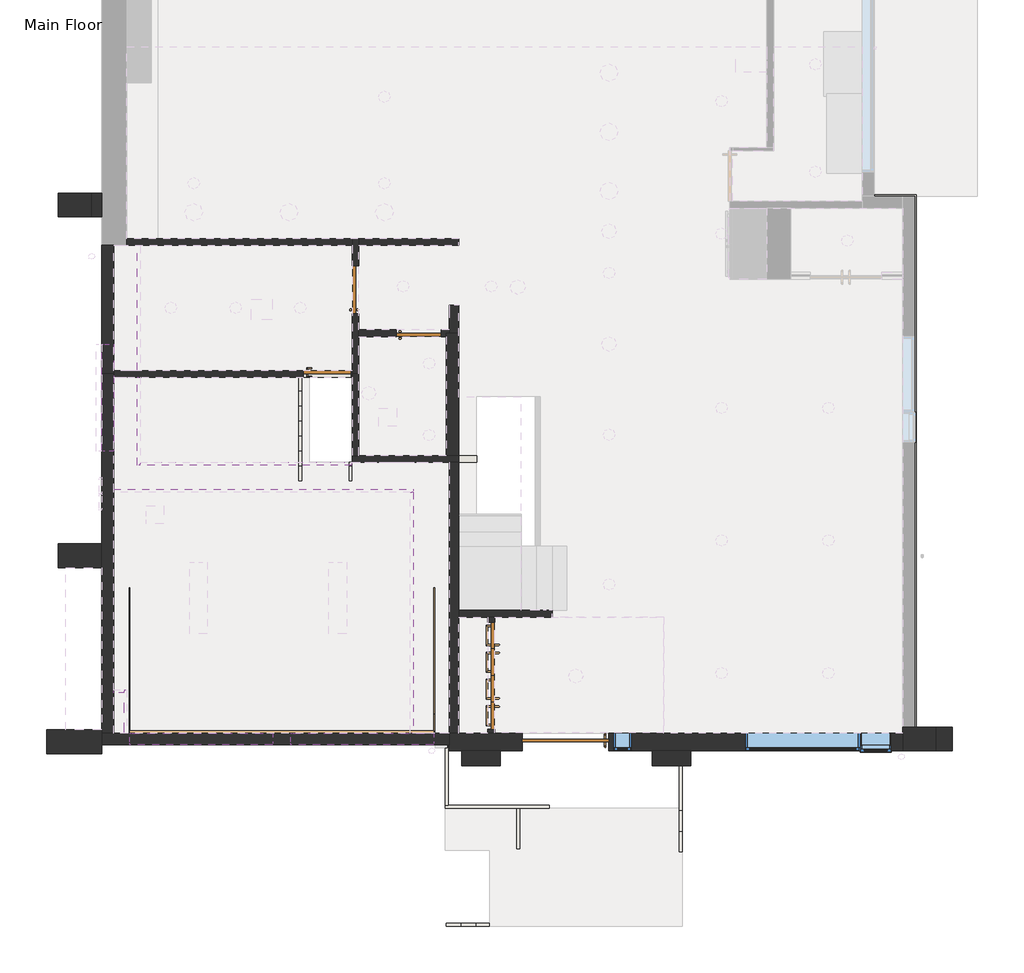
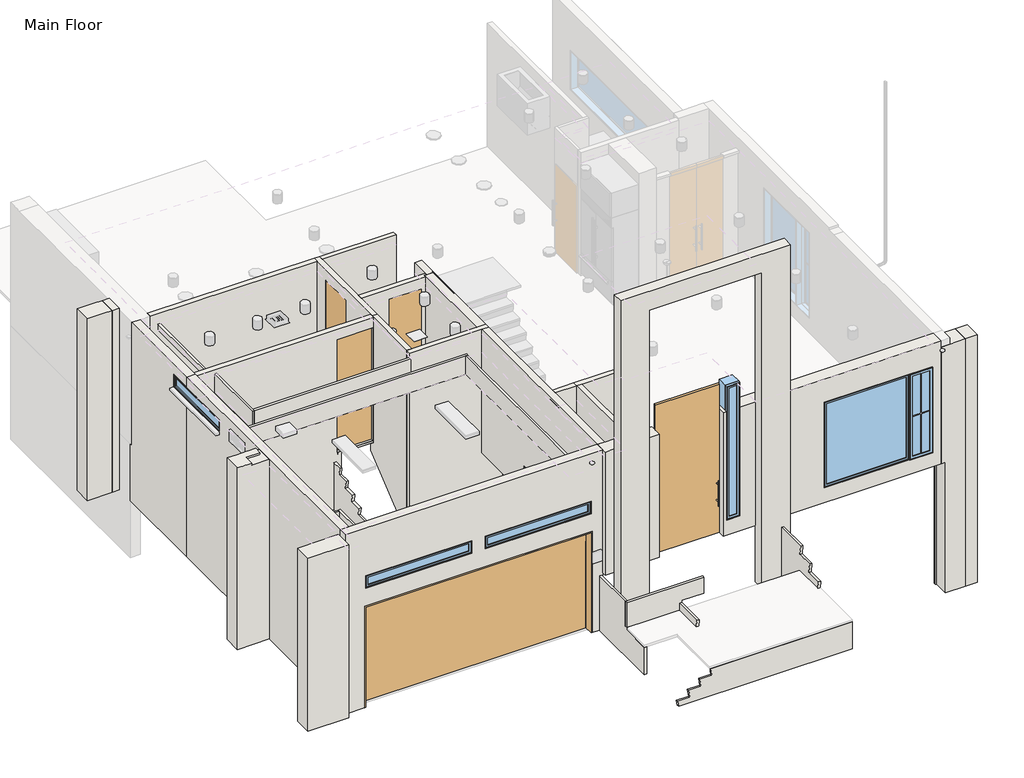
# One storey, part 1 of 4: 38 walls, 17 doors, 6 windows.
"""IFC4 building model written with IfcOpenShell, lengths in millimetres."""

from ifc_helpers import new_model, si_unit, frame, origin, origin_with_axes, place, context, project, spatial, polyline, outline, extrude, faceted_brep, transform, mapped, element, save
from components import door_a816a329, door_f25b7232, door_749a95ec, door_f305abca, door_1181abbb, door_3a3051ac, door_cb6dd7f7, door_b42d4ec2, door_511294f8, door_9450de81, door_17e05137, door_11404014, door_de8d7ad8, walls_3_walls_3_4ff58930, default_1_9af73325, default_1_be922671, default_1_c0464448, default_1_ae7297e2, default_1_7314fb05

model = new_model("IFC4")

# Units and contexts
model_context = context("Model", 3, world=origin())
ifc_project = project(units=[si_unit("LENGTHUNIT", "METRE", prefix="MILLI")], contexts=[model_context])

# Site, building, storey
site = spatial("IfcSite", under=ifc_project)
building = spatial("IfcBuilding", under=site)
storey = spatial("IfcBuildingStorey", under=building, Name="Main Floor", Elevation=0.0)

# Doors
placement = place(None, origin())
door_shape = door_a816a329(model_context)
element("IfcDoor", 1, ObjectType="Planitar -Double Door : Planitar -Double Door", at=placement, inside=storey, context=model_context, shape_type="MappedRepresentation", body=[
    mapped(door_shape, transform((14456.6517773, -198.1090595, 0.0), x_axis=(0.0, -1.0, 0.0), y_axis=(1.0, 0.0, 0.0), z_axis=(0.0, 0.0, 1.0))),
])
element("IfcDoor", 2, ObjectType="Planitar -Double Door : Planitar -Double Door", at=placement, inside=storey, context=model_context, shape_type="MappedRepresentation", body=[
    mapped(door_shape, transform((14456.6517773, 716.2909405, 0.0), x_axis=(0.0, -1.0, 0.0), y_axis=(1.0, 0.0, 0.0), z_axis=(0.0, 0.0, 1.0))),
])
door_2_shape = door_f25b7232(model_context)
element("IfcDoor", 3, ObjectType="Planitar - Swap_Flush Panel : Planitar - Swap_Flush Panel", at=placement, inside=storey, context=model_context, shape_type="MappedRepresentation", body=[
    mapped(door_2_shape, transform((14482.0517773, -198.1090595, 0.0), x_axis=(0.0, -1.0, 0.0), y_axis=(1.0, 0.0, 0.0), z_axis=(0.0, 0.0, 1.0))),
])
element("IfcDoor", 4, ObjectType="Planitar - Swap_Flush Panel : Planitar - Swap_Flush Panel", at=placement, inside=storey, context=model_context, shape_type="MappedRepresentation", body=[
    mapped(door_2_shape, transform((14482.0517773, 716.2909405, 0.0), x_axis=(0.0, -1.0, 0.0), y_axis=(1.0, 0.0, 0.0), z_axis=(0.0, 0.0, 1.0))),
])
door_3_shape = door_749a95ec(model_context)
element("IfcDoor", 5, ObjectType="Planitar - Swap_Flush Panel : Planitar - Swap_Flush Panel", at=placement, inside=storey, context=model_context, shape_type="MappedRepresentation", body=[
    mapped(door_3_shape, transform((14482.0517773, 259.0909405, 0.0), x_axis=(0.0, 1.0, 0.0), y_axis=(-1.0, 0.0, 0.0), z_axis=(0.0, 0.0, 1.0))),
])
element("IfcDoor", 6, ObjectType="Planitar - Swap_Flush Panel : Planitar - Swap_Flush Panel", at=placement, inside=storey, context=model_context, shape_type="MappedRepresentation", body=[
    mapped(door_3_shape, transform((14482.0517773, 1173.4909405, 0.0), x_axis=(0.0, 1.0, 0.0), y_axis=(-1.0, 0.0, 0.0), z_axis=(0.0, 0.0, 1.0))),
])
door_4_shape = door_f305abca(model_context)
element("IfcDoor", 7, ObjectType="Planitar - Swap_Flush Panel : Planitar - Swap_Flush Panel", at=placement, inside=storey, context=model_context, shape_type="MappedRepresentation", body=[
    mapped(door_4_shape, transform((13218.3049773, 6297.9409405, 0.0), x_axis=(1.0, 0.0, 0.0), y_axis=(0.0, 1.0, 0.0), z_axis=(0.0, 0.0, 1.0))),
])
door_5_shape = door_1181abbb(model_context)
element("IfcDoor", 8, ObjectType="Planitar - Swap_Flush Panel : Planitar - Swap_Flush Panel", at=placement, inside=storey, context=model_context, shape_type="MappedRepresentation", body=[
    mapped(door_5_shape, transform((12118.3017773, 7066.2909405, 0.0), x_axis=(0.0, 1.0, 0.0), y_axis=(-1.0, 0.0, 0.0), z_axis=(0.0, 0.0, 1.0))),
])
element("IfcDoor", 9, ObjectType="Planitar - Swap_Flush Panel : Planitar - Swap_Flush Panel", at=placement, inside=storey, context=model_context, shape_type="MappedRepresentation", body=[
    mapped(door_5_shape, transform((11661.1017773, 5656.5909405, 0.0), x_axis=(1.0, 0.0, 0.0), y_axis=(0.0, 1.0, 0.0), z_axis=(0.0, 0.0, 1.0))),
])
door_6_shape = door_3a3051ac(model_context)
element("IfcDoor", 10, ObjectType="Planitar - Swap_Flush Panel : Planitar - Swap_Flush Panel", at=placement, inside=storey, context=model_context, shape_type="MappedRepresentation", body=[
    mapped(door_6_shape, transform((15722.4569509, -617.2090595, 0.0), x_axis=(-1.0, 0.0, 0.0), y_axis=(0.0, -1.0, 0.0), z_axis=(0.0, 0.0, 1.0))),
])
door_7_shape = door_cb6dd7f7(model_context)
element("IfcDoor", 11, ObjectType="Planitar - Swap_Flush Panel : Planitar - Swap_Flush Panel", at=placement, inside=storey, context=model_context, shape_type="MappedRepresentation", body=[
    mapped(door_7_shape, transform((7941.4549773, 601.9909405, -1371.6), x_axis=(0.0, 1.0, 0.0), y_axis=(-1.0, 0.0, 0.0), z_axis=(0.0, 0.0, 1.0))),
])
door_8_shape = door_b42d4ec2(model_context)
element("IfcDoor", 12, ObjectType="Planitar - Garage Door : 17'-0\" x 6'-10\"", at=placement, inside=storey, context=model_context, shape_type="MappedRepresentation", body=[
    mapped(door_8_shape, transform((10884.8735773, -594.9840595, -1371.6), x_axis=(-1.0, 0.0, 0.0), y_axis=(0.0, -1.0, 0.0), z_axis=(0.0, 0.0, 1.0))),
])
door_9_shape = door_511294f8(model_context)
element("IfcDoor", 13, ObjectType="Planitar - Single Door_Swapper : 4'10\" x 11'10\"", at=placement, inside=storey, context=model_context, shape_type="MappedRepresentation", body=[
    mapped(door_9_shape, transform((15722.4569509, -642.6090595, 0.0), x_axis=(-1.0, 0.0, 0.0), y_axis=(0.0, -1.0, 0.0), z_axis=(0.0, 0.0, 1.0))),
])
door_10_shape = door_9450de81(model_context)
element("IfcDoor", 14, ObjectType="Planitar - Single Door_Swapper : 7'0\" x 2'8\"", at=placement, inside=storey, context=model_context, shape_type="MappedRepresentation", body=[
    mapped(door_10_shape, transform((7916.0549773, 601.9909405, -1371.6), x_axis=(0.0, 1.0, 0.0), y_axis=(-1.0, 0.0, 0.0), z_axis=(0.0, 0.0, 1.0))),
])
door_11_shape = door_17e05137(model_context)
element("IfcDoor", 15, ObjectType="Planitar - Single Door_Swapper : 9'0\" x 2'6\"", at=placement, inside=storey, context=model_context, shape_type="MappedRepresentation", body=[
    mapped(door_11_shape, transform((13218.3049773, 6323.3409405, 0.0), x_axis=(1.0, 0.0, 0.0), y_axis=(0.0, 1.0, 0.0), z_axis=(0.0, 0.0, 1.0))),
])
door_12_shape = door_11404014(model_context)
element("IfcDoor", 16, ObjectType="Planitar - Single Door_Swapper : 9'0\" x 2'8\"", at=placement, inside=storey, context=model_context, shape_type="MappedRepresentation", body=[
    mapped(door_12_shape, transform((12143.7017773, 7066.2909405, 0.0), x_axis=(0.0, 1.0, 0.0), y_axis=(-1.0, 0.0, 0.0), z_axis=(0.0, 0.0, 1.0))),
])
door_13_shape = door_de8d7ad8(model_context)
element("IfcDoor", 17, ObjectType="Planitar - Single Door_Swapper : 9'0\" x 2'8\"", at=placement, inside=storey, context=model_context, shape_type="MappedRepresentation", body=[
    mapped(door_13_shape, transform((11661.1017773, 5631.1909405, 0.0), x_axis=(1.0, 0.0, 0.0), y_axis=(0.0, 1.0, 0.0), z_axis=(0.0, 0.0, 1.0))),
])

# Walls
element("IfcWall", 18, ObjectType="Planitar - Generic 1' - 0\"", at=placement, inside=storey, context=model_context, shape_type="Brep", body=[
    faceted_brep([(16844.2517773, -490.2090595, 355.6), (16844.2517773, -490.2090595, 2997.2), (17396.7017773, -490.2090595, 2997.2), (21473.3049773, -490.2090595, 2997.2), (21473.3049773, -490.2090595, 0.0), (16459.0569509, -490.2090595, 0.0), (16459.0569509, -490.2090595, 2997.2), (16539.4517773, -490.2090595, 2997.2), (16539.4517773, -490.2090595, 355.6), (18787.2549773, -490.2090595, 2438.4), (18787.2549773, -490.2090595, 355.6), (21276.4549773, -490.2090595, 355.6), (21276.4549773, -490.2090595, 2438.4), (16844.2517773, -795.0090595, 2997.2), (16844.2517773, -795.0090595, 355.6), (16539.4517773, -795.0090595, 355.6), (16539.4517773, -795.0090595, 2997.2), (16459.0569509, -795.0090595, 2997.2), (16459.0569509, -795.0090595, 0.0), (21473.3049773, -795.0090595, 0.0), (21473.3049773, -795.0090595, 2844.8), (21473.3049773, -795.0090595, 2997.2), (17396.7017773, -795.0090595, 2997.2), (18787.2549773, -795.0090595, 355.6), (18787.2549773, -795.0090595, 2438.4), (21276.4549773, -795.0090595, 2438.4), (21276.4549773, -795.0090595, 355.6)], [[[0, 1, 2, 3, 4, 5, 6, 7, 8], [9, 10, 11, 12]], [[13, 14, 15, 16, 17, 18, 19, 20, 21, 22], [23, 24, 25, 26]], [[24, 9, 12, 25]], [[10, 9, 24, 23]], [[10, 23, 26, 11]], [[25, 12, 11, 26]], [[0, 14, 13, 1]], [[15, 8, 7, 16]], [[14, 0, 8, 15]], [[4, 19, 18, 5]], [[21, 3, 2, 1, 13, 22]], [[16, 7, 6, 17]], [[4, 3, 21, 20, 19]], [[6, 5, 18, 17]]]),
    faceted_brep([(13738.9081773, -490.2090595, 0.0), (13738.9081773, -490.2090595, 2997.2), (13891.5017773, -490.2090595, 2997.2), (13904.0081773, -490.2090595, 2997.2), (14399.5017773, -490.2090595, 2997.2), (14513.8017773, -490.2090595, 2997.2), (14985.8569509, -490.2090595, 2997.2), (14985.8569509, -490.2090595, 0.0), (14513.8017773, -490.2090595, 0.0), (14399.5017773, -490.2090595, 0.0), (13904.0081773, -490.2090595, 0.0), (13738.9081773, -795.0090595, 2997.2), (13738.9081773, -795.0090595, 0.0), (14985.8569509, -795.0090595, 0.0), (14985.8569509, -795.0090595, 2997.2), (13891.5017773, -795.0090595, 2997.2), (13738.9081773, -693.4090595, 2997.2)], [[[0, 1, 2, 3, 4, 5, 6, 7, 8, 9, 10]], [[11, 12, 13, 14, 15]], [[12, 0, 10, 9, 8, 7, 13]], [[1, 16, 11, 15, 14, 6, 5, 4, 3, 2]], [[1, 0, 12, 11, 16]], [[7, 6, 14, 13]]]),
])
element("IfcWall", 19, ObjectType="Planitar - Generic 8\"", at=placement, inside=storey, context=model_context, shape_type="Brep", body=[
    faceted_brep([(8017.6549773, -490.2090595, 2997.2), (8017.6549773, -490.2090595, -1371.6), (8017.6549773, 195.5909405, -1371.6), (8017.6549773, 195.5909405, 762.0), (8017.6549773, 1008.3909405, 762.0), (8017.6549773, 1008.3909405, -1371.6), (8017.6549773, 5574.0409405, -1371.6), (8017.6549773, 5631.1909405, -1371.6), (8017.6549773, 5631.1909405, 2451.1), (8017.6549773, 4310.3909405, 2451.1), (8017.6549773, 4310.3909405, 2755.9), (8017.6549773, 5631.1909405, 2755.9), (8017.6549773, 5631.1909405, 2997.2), (8017.6549773, 5574.0409405, 2997.2), (7814.4549773, -490.2090595, -1371.6), (7814.4549773, -490.2090595, 2997.2), (7814.4549773, 2329.1909405, 2997.2), (7814.4549773, 2735.5909405, 2997.2), (7814.4549773, 5631.1909405, 2997.2), (7814.4549773, 5631.1909405, 2755.9), (7814.4549773, 4310.3909405, 2755.9), (7814.4549773, 4310.3909405, 2451.1), (7814.4549773, 5631.1909405, 2451.1), (7814.4549773, 5631.1909405, -1371.6), (7814.4549773, 2735.5909405, -1371.6), (7814.4549773, 2329.1909405, -1371.6), (7814.4549773, 1008.3909405, -1371.6), (7814.4549773, 1008.3909405, 762.0), (7814.4549773, 195.5909405, 762.0), (7814.4549773, 195.5909405, -1371.6), (7814.4549773, -432.572909, -1371.6)], [[[0, 1, 2, 3, 4, 5, 6, 7, 8, 9, 10, 11, 12, 13]], [[14, 15, 16, 17, 18, 19, 20, 21, 22, 23, 24, 25, 26, 27, 28, 29, 30]], [[1, 14, 30, 29, 2]], [[23, 7, 6, 5, 26, 25, 24]], [[7, 23, 22, 8]], [[18, 12, 11, 19]], [[14, 1, 0, 15]], [[4, 27, 26, 5]], [[27, 4, 3, 28]], [[28, 3, 2, 29]], [[0, 13, 12, 18, 17, 16, 15]], [[9, 21, 20, 10]], [[10, 20, 19, 11]], [[21, 9, 8, 22]]]),
])
element("IfcWall", 20, ObjectType="Planitar - Generic 6 1/2\"", at=placement, inside=storey, context=model_context, shape_type="Brep", body=[
    faceted_brep([(13904.0081773, -490.2090595, 0.0), (13904.0081773, 1484.6409405, 0.0), (13904.0081773, 1598.9409405, 0.0), (13904.0081773, 4126.2409405, 0.0), (13904.0081773, 4126.2409405, 2997.2), (13904.0081773, 1598.9409405, 2997.2), (13904.0081773, 1484.6409405, 2997.2), (13904.0081773, -490.2090595, 2997.2), (13738.9081773, -490.2090595, 0.0), (13738.9081773, -490.2090595, 2997.2), (13738.9081773, 4126.2409405, 2997.2), (13738.9081773, 4126.2409405, 0.0), (13738.9081773, -439.4090595, 0.0)], [[[0, 1, 2, 3, 4, 5, 6, 7]], [[8, 9, 10, 11, 12]], [[3, 2, 1, 0, 8, 12, 11]], [[0, 7, 9, 8]], [[4, 3, 11, 10]], [[7, 6, 5, 4, 10, 9]]]),
])
element("IfcWall", 21, ObjectType="Planitar - Generic 4 1/2\"", at=placement, inside=storey, context=model_context, shape_type="Brep", body=[
    faceted_brep([(14208.8081773, 4240.5409405, -1371.6), (13738.9081773, 4240.5409405, -1371.6), (12200.8517773, 4240.5409405, -1371.6), (12086.5517773, 4240.5409405, -1371.6), (12086.5517773, 4240.5409405, 2997.2), (12200.8517773, 4240.5409405, 2997.2), (13688.2049773, 4240.5409405, 2997.2), (13904.0081773, 4240.5409405, 2997.2), (13904.1049773, 4240.5409405, 0.0), (14208.8081773, 4240.5409405, 0.0), (14208.8081773, 4240.5409405, -50.8), (14208.8081773, 4126.2409405, -1371.6), (14208.8081773, 4126.2409405, -50.8), (14208.8081773, 4126.2409405, 0.0), (13904.1049773, 4126.2409405, 0.0), (13904.1049773, 4126.2409405, 2997.2), (13738.9081773, 4126.2409405, 2997.2), (12086.5517773, 4126.2409405, 2997.2), (12086.5517773, 4126.2409405, -1371.6), (13738.9081773, 4126.2409405, -1371.6)], [[[0, 1, 2, 3, 4, 5, 6, 7, 8, 9, 10]], [[11, 12, 13, 14, 15, 16, 17, 18, 19]], [[3, 2, 1, 0, 11, 19, 18]], [[4, 3, 18, 17]], [[8, 14, 13, 9]], [[0, 10, 9, 13, 12, 11]], [[8, 7, 15, 14]], [[7, 6, 5, 4, 17, 16, 15]]]),
])
element("IfcWall", 22, ObjectType="Planitar - Generic 4 1/2\"", at=placement, inside=storey, context=model_context, shape_type="Brep", body=[
    faceted_brep([(12200.8517773, 4240.5409405, -1371.6), (12200.8517773, 4380.2409405, -1371.6), (12200.8517773, 4380.2409405, -1355.372211), (12200.8517773, 5688.3409405, -314.8624885), (12200.8517773, 5688.3409405, 0.0), (12200.8517773, 5631.1909405, 0.0), (12200.8517773, 5631.1909405, 2997.2), (12200.8517773, 4240.5409405, 2997.2), (12086.5517773, 4240.5409405, -1371.6), (12086.5517773, 4240.5409405, 2997.2), (12086.5517773, 5574.0409405, 2997.2), (12086.5517773, 5631.1909405, 2997.2), (12086.5517773, 5631.1909405, 0.0), (12086.5517773, 5688.3409405, 0.0), (12086.5517773, 5688.3409405, -50.8), (12086.5517773, 5688.3409405, -314.8624885), (12086.5517773, 4380.2409405, -1355.372211), (12086.5517773, 4380.2409405, -1371.6)], [[[0, 1, 2, 3, 4, 5, 6, 7]], [[8, 9, 10, 11, 12, 13, 14, 15, 16, 17]], [[0, 7, 9, 8]], [[4, 3, 15, 14, 13]], [[1, 0, 8, 17]], [[6, 5, 12, 11]], [[12, 5, 4, 13]], [[2, 1, 17, 16]], [[3, 2, 16, 15]], [[7, 6, 11, 10, 9]]]),
])
element("IfcWall", 23, ObjectType="Planitar - Generic 4 1/2\"", at=placement, inside=storey, context=model_context, shape_type="SweptSolid", body=[
    extrude(outline(polyline([(13904.2985773, 7821.9409405), (12200.8517773, 7821.9409405), (12200.8517773, 7936.2409405), (13904.2985773, 7936.2409405), (13904.2985773, 7821.9409405)])), origin_with_axes(), (0.0, 0.0, 1.0), 2997.2),
])
element("IfcWall", 24, ObjectType="Planitar - Generic 4 1/2\"", at=placement, inside=storey, context=model_context, shape_type="Brep", body=[
    faceted_brep([(8246.2549773, 7824.1282405, 0.0), (12086.5517773, 7824.1282405, 0.0), (12086.5517773, 7824.1282405, 2997.2), (8246.2549773, 7824.1282405, 2997.2), (8246.2549773, 7938.4282405, 0.0), (8246.2549773, 7938.4282405, 2997.2), (12086.5517773, 7938.4282405, 2997.2), (12086.5517773, 7938.4282405, 0.0), (8767.3474773, 7938.4282405, 0.0), (8653.0474773, 7938.4282405, 0.0), (12086.5517773, 7936.2409405, 0.0), (12086.5517773, 7936.2409405, 2997.2)], [[[0, 1, 2, 3]], [[4, 5, 6, 7, 8, 9]], [[1, 0, 4, 9, 8, 7, 10]], [[0, 3, 5, 4]], [[2, 1, 10, 7, 6, 11]], [[3, 2, 11, 6, 5]]]),
])
element("IfcWall", 25, ObjectType="Planitar - Generic 4 1/2\"", at=placement, inside=storey, context=model_context, shape_type="Brep", body=[
    faceted_brep([(13688.2049773, 6266.1909405, 0.0), (13688.2049773, 6266.1909405, 2997.2), (12200.8517773, 6266.1909405, 2997.2), (12200.8517773, 6266.1909405, 0.0), (12837.3049773, 6266.1909405, 0.0), (12837.3049773, 6266.1909405, 2743.2), (13599.3049773, 6266.1909405, 2743.2), (13599.3049773, 6266.1909405, 0.0), (13739.0049773, 6380.4909405, 2997.2), (13739.0049773, 6380.4909405, 0.0), (13599.3049773, 6380.4909405, 0.0), (13599.3049773, 6380.4909405, 2743.2), (12837.3049773, 6380.4909405, 2743.2), (12837.3049773, 6380.4909405, 0.0), (12200.8517773, 6380.4909405, 0.0), (12200.8517773, 6380.4909405, 2997.2), (13739.0049773, 6323.3409405, 0.0), (13688.2049773, 6323.3409405, 0.0), (13688.2049773, 6323.3409405, 2997.2), (13739.0049773, 6323.3409405, 2997.2)], [[[0, 1, 2, 3, 4, 5, 6, 7]], [[8, 9, 10, 11, 12, 13, 14, 15]], [[3, 14, 13, 4]], [[9, 16, 17, 0, 7, 10]], [[1, 0, 17, 18]], [[3, 2, 15, 14]], [[17, 16, 19, 18]], [[9, 8, 19, 16]], [[2, 1, 18, 19, 8, 15]], [[6, 11, 10, 7]], [[11, 6, 5, 12]], [[12, 5, 4, 13]]]),
])
element("IfcWall", 26, ObjectType="Planitar - Generic 6 1/2\"", at=placement, inside=storey, context=model_context, shape_type="Brep", body=[
    faceted_brep([(13904.1049773, 6323.3409405, 0.0), (13904.1049773, 6799.5909405, 0.0), (13904.1049773, 6799.5909405, 2997.2), (13904.1049773, 6355.0909405, 2997.2), (13904.1049773, 6323.3409405, 2997.2), (13739.0049773, 6323.3409405, 0.0), (13739.0049773, 6323.3409405, 2997.2), (13739.0049773, 6380.4909405, 2997.2), (13739.0049773, 6799.5909405, 2997.2), (13739.0049773, 6799.5909405, 0.0), (13739.0049773, 6380.4909405, 0.0)], [[[0, 1, 2, 3, 4]], [[5, 6, 7, 8, 9, 10]], [[1, 0, 5, 10, 9]], [[2, 1, 9, 8]], [[0, 4, 6, 5]], [[4, 3, 2, 8, 7, 6]]]),
])
element("IfcWall", 27, ObjectType="Planitar - Generic 8 1/2\"", at=placement, inside=storey, context=model_context, shape_type="Brep", body=[
    faceted_brep([(13904.1049773, 4240.5409405, 0.0), (13904.1049773, 6323.3409405, 0.0), (13904.1049773, 6323.3409405, 2997.2), (13904.1049773, 4240.5409405, 2997.2), (13688.2049773, 4240.5409405, 0.0), (13688.2049773, 4240.5409405, 2997.2), (13688.2049773, 6266.1909405, 2997.2), (13688.2049773, 6323.3409405, 2997.2), (13688.2049773, 6323.3409405, 0.0), (13688.2049773, 6266.1909405, 0.0), (13739.0049773, 6323.3409405, 0.0), (13739.0049773, 6323.3409405, 2997.2)], [[[0, 1, 2, 3]], [[4, 5, 6, 7, 8, 9]], [[1, 0, 4, 9, 8, 10]], [[2, 1, 10, 8, 7, 11]], [[0, 3, 5, 4]], [[3, 2, 11, 7, 6, 5]]]),
])
element("IfcWall", 28, ObjectType="Planitar - Generic 4 1/2\"", at=placement, inside=storey, context=model_context, shape_type="Brep", body=[
    faceted_brep([(8017.6549773, 5574.0409405, -1371.6), (11172.1517773, 5574.0409405, -1371.6), (11222.9517773, 5574.0409405, -1371.6), (11345.1517773, 5574.0409405, -1371.6), (11345.1517773, 5574.0409405, -50.8), (12086.5517773, 5574.0409405, -50.8), (12086.5517773, 5574.0409405, 2997.2), (8017.6549773, 5574.0409405, 2997.2), (12067.5017773, 5574.0409405, 0.0), (11254.7017773, 5574.0409405, 0.0), (11254.7017773, 5574.0409405, 2743.2), (12067.5017773, 5574.0409405, 2743.2), (8017.6549773, 5688.3409405, -1371.6), (8017.6549773, 5688.3409405, 2997.2), (12086.5517773, 5688.3409405, 2997.2), (12086.5517773, 5688.3409405, 0.0), (12086.5517773, 5688.3409405, -50.8), (11345.1517773, 5688.3409405, -50.8), (11345.1517773, 5688.3409405, -331.0902774), (11345.1517773, 5688.3409405, -1371.6), (8297.1517773, 5688.3409405, -1371.6), (8043.1517773, 5688.3409405, -1371.6), (12067.5017773, 5688.3409405, 0.0), (12067.5017773, 5688.3409405, 2743.2), (11254.7017773, 5688.3409405, 2743.2), (11254.7017773, 5688.3409405, 0.0), (8017.6549773, 5631.1909405, 2997.2), (8017.6549773, 5631.1909405, -1371.6), (12086.5517773, 5631.1909405, 2997.2), (11345.1517773, 5637.5409405, -1371.6)], [[[0, 1, 2, 3, 4, 5, 6, 7], [8, 9, 10, 11]], [[12, 13, 14, 15, 16, 17, 18, 19, 20, 21], [22, 23, 24, 25]], [[0, 7, 26, 13, 12, 27]], [[5, 16, 15, 14, 28, 6]], [[3, 2, 1, 0, 27, 12, 21, 20, 19, 29]], [[5, 4, 17, 16]], [[4, 3, 29, 19, 18, 17]], [[7, 6, 28, 14, 13, 26]], [[23, 22, 8, 11]], [[24, 23, 11, 10]], [[25, 24, 10, 9]], [[22, 25, 9, 8]]]),
])
element("IfcWall", 29, ObjectType="Planitar - Generic 4 1/2\"", at=placement, inside=storey, context=model_context, shape_type="Brep", body=[
    faceted_brep([(13904.0081773, 1484.6409405, 0.0), (14399.5017773, 1484.6409405, 0.0), (14513.8017773, 1484.6409405, 0.0), (15498.9030773, 1484.6409405, 0.0), (15498.9030773, 1484.6409405, 2997.2), (14513.8017773, 1484.6409405, 2997.2), (14399.5017773, 1484.6409405, 2997.2), (13904.0081773, 1484.6409405, 2997.2), (13904.0081773, 1598.9409405, 0.0), (13904.0081773, 1598.9409405, 2997.2), (14399.5017773, 1598.9409405, 2997.2), (15498.9030773, 1598.9409405, 2997.2), (15498.9030773, 1598.9409405, 0.0)], [[[0, 1, 2, 3, 4, 5, 6, 7]], [[8, 9, 10, 11, 12]], [[3, 2, 1, 0, 8, 12]], [[4, 3, 12, 11]], [[0, 7, 9, 8]], [[6, 5, 4, 11, 10]], [[7, 6, 10, 9]]]),
])
element("IfcWall", 30, ObjectType="Planitar - Generic 4 1/2\"", at=placement, inside=storey, context=model_context, shape_type="SweptSolid", body=[
    extrude(outline(polyline([(-490.2090595, 2997.2), (1484.6409405, 2997.2), (1484.6409405, 0.0), (1402.0909405, 0.0), (1402.0909405, 2032.0), (-426.7090595, 2032.0), (-426.7090595, 0.0), (-490.2090595, 0.0), (-490.2090595, 2997.2)])), frame((14399.5017773, 0.0, 0.0), z_axis=(1.0, 0.0, 0.0), x_axis=(0.0, 1.0, 0.0)), (0.0, 0.0, 1.0), 114.3),
])
element("IfcWall", 31, ObjectType="Planitar - Generic 8\"", at=placement, inside=storey, context=model_context, shape_type="Brep", body=[
    faceted_brep([(8017.6549773, 5631.1909405, -1371.6), (8017.6549773, 5688.3409405, -1371.6), (8017.6549773, 7881.2782405, -1371.6), (8017.6549773, 7881.2782405, 0.0), (8017.6549773, 7824.1282405, 0.0), (8017.6549773, 7824.1282405, 2997.2), (8017.6549773, 5688.3409405, 2997.2), (8017.6549773, 5631.1909405, 2997.2), (8017.6549773, 5631.1909405, 2755.9), (8017.6549773, 6139.1909405, 2755.9), (8017.6549773, 6139.1909405, 2451.1), (8017.6549773, 5631.1909405, 2451.1), (7814.4549773, 7881.2782405, -1371.6), (7814.4549773, 5631.1909405, -1371.6), (7814.4549773, 5631.1909405, 2451.1), (7814.4549773, 6139.1909405, 2451.1), (7814.4549773, 6139.1909405, 2755.9), (7814.4549773, 5631.1909405, 2755.9), (7814.4549773, 5631.1909405, 2997.2), (7814.4549773, 7824.1282405, 2997.2), (7814.4549773, 7824.1282405, 0.0), (7814.4549773, 7881.2782405, 0.0)], [[[0, 1, 2, 3, 4, 5, 6, 7, 8, 9, 10, 11]], [[12, 13, 14, 15, 16, 17, 18, 19, 20, 21]], [[2, 1, 0, 13, 12]], [[13, 0, 11, 14]], [[7, 18, 17, 8]], [[7, 6, 5, 19, 18]], [[2, 12, 21, 3]], [[19, 5, 4, 20]], [[4, 3, 21, 20]], [[16, 9, 8, 17]], [[9, 16, 15, 10]], [[10, 15, 14, 11]]]),
])
element("IfcWall", 32, ObjectType="Planitar - Generic 8\"", at=placement, inside=storey, context=model_context, shape_type="Brep", body=[
    faceted_brep([(7814.4549773, -490.2090595, 2997.2), (8017.6549773, -490.2090595, 2997.2), (13738.9081773, -490.2090595, 2997.2), (13738.9081773, -490.2090595, 0.0), (13738.9081773, -490.2090595, -1371.6), (13475.6735773, -490.2090595, -1371.6), (13475.6735773, -490.2090595, 1066.8), (8294.0735773, -490.2090595, 1066.8), (8294.0735773, -490.2090595, -1371.6), (8017.6549773, -490.2090595, -1371.6), (7814.4549773, -490.2090595, -1371.6), (10732.4735773, -490.2090595, 1524.0), (10732.4735773, -490.2090595, 1828.8), (8294.0735773, -490.2090595, 1828.8), (8294.0735773, -490.2090595, 1524.0), (13475.6735773, -490.2090595, 1828.8), (11037.2735773, -490.2090595, 1828.8), (11037.2735773, -490.2090595, 1524.0), (13475.6735773, -490.2090595, 1524.0), (13738.9081773, -693.4090595, 2997.2), (7814.4549773, -693.4090595, 2997.2), (7814.4549773, -693.4090595, -1371.6), (8294.0735773, -693.4090595, -1371.6), (8294.0735773, -693.4090595, 1066.8), (13475.6735773, -693.4090595, 1066.8), (13475.6735773, -693.4090595, -1371.6), (13669.0581773, -693.4090595, -1371.6), (13719.8581773, -693.4090595, -1371.6), (13738.9081773, -693.4090595, -1371.6), (10732.4735773, -693.4090595, 1828.8), (10732.4735773, -693.4090595, 1524.0), (8294.0735773, -693.4090595, 1524.0), (8294.0735773, -693.4090595, 1828.8), (11037.2735773, -693.4090595, 1828.8), (13475.6735773, -693.4090595, 1828.8), (13475.6735773, -693.4090595, 1524.0), (11037.2735773, -693.4090595, 1524.0)], [[[0, 1, 2, 3, 4, 5, 6, 7, 8, 9, 10], [11, 12, 13, 14], [15, 16, 17, 18]], [[19, 20, 21, 22, 23, 24, 25, 26, 27, 28], [29, 30, 31, 32], [33, 34, 35, 36]], [[5, 4, 28, 27, 26, 25]], [[21, 10, 9, 8, 22]], [[2, 1, 0, 20, 19]], [[7, 23, 22, 8]], [[23, 7, 6, 24]], [[24, 6, 5, 25]], [[10, 21, 20, 0]], [[12, 11, 30, 29]], [[13, 12, 29, 32]], [[14, 13, 32, 31]], [[11, 14, 31, 30]], [[15, 34, 33, 16]], [[16, 33, 36, 17]], [[17, 36, 35, 18]], [[34, 15, 18, 35]], [[28, 4, 3, 2, 19]]]),
])
element("IfcWall", 33, ObjectType="Planitar - Generic 4 1/2\"", at=placement, inside=storey, context=model_context, shape_type="Brep", body=[
    faceted_brep([(12200.8517773, 5631.1909405, 2997.2), (12200.8517773, 5631.1909405, 0.0), (12200.8517773, 5688.3409405, 0.0), (12200.8517773, 6266.1909405, 0.0), (12200.8517773, 6380.4909405, 0.0), (12200.8517773, 6659.8909405, 0.0), (12200.8517773, 6659.8909405, 2743.2), (12200.8517773, 7472.6909405, 2743.2), (12200.8517773, 7472.6909405, 0.0), (12200.8517773, 7821.9409405, 0.0), (12200.8517773, 7936.2409405, 0.0), (12200.8517773, 7936.2409405, 2997.2), (12200.8517773, 7821.9409405, 2997.2), (12200.8517773, 6380.4909405, 2997.2), (12200.8517773, 6266.1909405, 2997.2), (12086.5517773, 5631.1909405, 0.0), (12086.5517773, 5631.1909405, 2997.2), (12086.5517773, 5688.3409405, 2997.2), (12086.5517773, 7824.1282405, 2997.2), (12086.5517773, 7936.2409405, 2997.2), (12086.5517773, 7936.2409405, 0.0), (12086.5517773, 7824.1282405, 0.0), (12086.5517773, 7472.6909405, 0.0), (12086.5517773, 7472.6909405, 2743.2), (12086.5517773, 6659.8909405, 2743.2), (12086.5517773, 6659.8909405, 0.0), (12086.5517773, 5688.3409405, 0.0)], [[[0, 1, 2, 3, 4, 5, 6, 7, 8, 9, 10, 11, 12, 13, 14]], [[15, 16, 17, 18, 19, 20, 21, 22, 23, 24, 25, 26]], [[20, 10, 9, 8, 22, 21]], [[1, 15, 26, 25, 5, 4, 3, 2]], [[1, 0, 16, 15]], [[11, 10, 20, 19]], [[0, 14, 13, 12, 11, 19, 18, 17, 16]], [[7, 23, 22, 8]], [[23, 7, 6, 24]], [[24, 6, 5, 25]]]),
])
element("IfcWall", 34, ObjectType="Planitar - Generic 2\"", at=placement, inside=storey, context=model_context, shape_type="SweptSolid", body=[
    extrude(outline(polyline([(5574.0409405, -1371.6), (3828.4177293, -1371.6), (3810.7084847, -1250.15), (4090.7175847, -1250.15), (4065.7175847, -1078.7), (4345.7267847, -1078.7), (4320.7267847, -907.25), (4600.7359847, -907.25), (4575.7359847, -735.8), (4855.7450847, -735.8), (4830.7450847, -564.35), (5110.7542847, -564.35), (5085.7542847, -392.9), (5365.7634847, -392.9), (5340.7634847, -221.45), (5574.0409405, -221.45), (5574.0409405, -1371.6)])), frame((11172.1517773, 0.0, 0.0), z_axis=(1.0, 0.0, 0.0), x_axis=(0.0, 1.0, 0.0)), (0.0, 0.0, 1.0), 50.8),
])
element("IfcWall", 35, ObjectType="Planitar - Generic 2\"", at=placement, inside=storey, context=model_context, shape_type="SweptSolid", body=[
    extrude(outline(polyline([(4126.2409405, -1371.6), (3828.4177293, -1371.6), (3810.7084847, -1250.15), (4090.7175847, -1250.15), (4065.7175847, -1078.7), (4126.2409405, -1078.7), (4126.2409405, -1371.6)])), frame((12030.9517773, 0.0, 0.0), z_axis=(1.0, 0.0, 0.0), x_axis=(0.0, 1.0, 0.0)), (0.0, 0.0, 1.0), 50.8),
])
element("IfcWall", 36, ObjectType="Planitar - Generic 2\"", at=placement, inside=storey, context=model_context, shape_type="SweptSolid", body=[
    extrude(outline(polyline([(8424.1517773, 5688.3409405), (8424.1517773, 7824.1282405), (8474.9517773, 7824.1282405), (8474.9517773, 5688.3409405), (8424.1517773, 5688.3409405)])), frame((0.0, 0.0, 2603.5), z_axis=(0.0, 0.0, 1.0), x_axis=(1.0, 0.0, 0.0)), (0.0, 0.0, 1.0), 139.7),
])
element("IfcWall", 37, ObjectType="Planitar - Generic 2\"", at=placement, inside=storey, context=model_context, shape_type="Brep", body=[
    faceted_brep([(8424.1517773, 5574.0409405, 2451.1), (8424.1517773, 4075.4409405, 2451.1), (8424.1517773, 4075.4409405, 2895.6), (8424.1517773, 5574.0409405, 2895.6), (8474.9517773, 5574.0409405, 2451.1), (8474.9517773, 5574.0409405, 2895.6), (8474.9517773, 4126.2409405, 2895.6), (8474.9517773, 4075.4409405, 2895.6), (8474.9517773, 4075.4409405, 2451.1), (8474.9517773, 4126.2409405, 2451.1)], [[[0, 1, 2, 3]], [[4, 5, 6, 7, 8, 9]], [[1, 0, 4, 9, 8]], [[3, 2, 7, 6, 5]], [[0, 3, 5, 4]], [[2, 1, 8, 7]]]),
])
element("IfcWall", 38, ObjectType="Planitar - Generic 2\"", at=placement, inside=storey, context=model_context, shape_type="SweptSolid", body=[
    extrude(outline(polyline([(12081.7517773, 4075.4409405), (8474.9517773, 4075.4409405), (8474.9517773, 4126.2409405), (12081.7517773, 4126.2409405), (12081.7517773, 4075.4409405)])), frame((0.0, 0.0, 2451.1), z_axis=(0.0, 0.0, 1.0), x_axis=(1.0, 0.0, 0.0)), (0.0, 0.0, 1.0), 444.5),
])
element("IfcWall", 39, ObjectType="Planitar - Generic 2\"", at=placement, inside=storey, context=model_context, shape_type="Brep", body=[
    faceted_brep([(8017.6549773, 3618.2409405, 2451.1), (13078.6049773, 3618.2409405, 2451.1), (13129.4049773, 3618.2409405, 2451.1), (13129.4049773, 3618.2409405, 2895.6), (13078.6049773, 3618.2409405, 2895.6), (8017.6549773, 3618.2409405, 2895.6), (8017.6549773, 3669.0409405, 2451.1), (8017.6549773, 3669.0409405, 2895.6), (13129.4049773, 3669.0409405, 2895.6), (13129.4049773, 3669.0409405, 2451.1)], [[[0, 1, 2, 3, 4, 5]], [[6, 7, 8, 9]], [[2, 1, 0, 6, 9]], [[5, 4, 3, 8, 7]], [[0, 5, 7, 6]], [[3, 2, 9, 8]]]),
])
element("IfcWall", 40, ObjectType="Planitar - Generic 2\"", at=placement, inside=storey, context=model_context, shape_type="SweptSolid", body=[
    extrude(outline(polyline([(13078.6049773, -490.2090595), (13078.6049773, 3618.2409405), (13129.4049773, 3618.2409405), (13129.4049773, -490.2090595), (13078.6049773, -490.2090595)])), frame((0.0, 0.0, 2451.1), z_axis=(0.0, 0.0, 1.0), x_axis=(1.0, 0.0, 0.0)), (0.0, 0.0, 1.0), 444.5),
])
element("IfcWall", 41, ObjectType="Planitar - Generic 2\"", at=placement, inside=storey, context=model_context, shape_type="SweptSolid", body=[
    extrude(outline(polyline([(-693.4090595, -1371.6), (-2484.1090595, -1371.6), (-2484.1090595, -711.2), (-1772.9090595, -711.2), (-1772.9090595, -660.4), (-1722.1090595, -660.4), (-1722.1090595, -50.8), (-693.4090595, -50.8), (-693.4090595, -1371.6)])), frame((13669.0581773, 0.0, 0.0), z_axis=(1.0, 0.0, 0.0), x_axis=(0.0, 1.0, 0.0)), (0.0, 0.0, 1.0), 50.8),
])
element("IfcWall", 42, ObjectType="Planitar - Generic 2\"", at=placement, inside=storey, context=model_context, shape_type="Brep", body=[
    faceted_brep([(17707.7549773, -3779.5090595, -1371.6), (17707.7549773, -3779.5090595, -711.2), (14450.823995, -3779.5090595, -711.2), (14475.7115091, -3779.5090595, -888.2), (14196.7115091, -3779.5090595, -888.2), (14221.7115091, -3779.5090595, -1066.0), (13942.7115091, -3779.5090595, -1066.0), (13967.7115091, -3779.5090595, -1243.8), (13688.7115091, -3779.5090595, -1243.8), (13706.6811378, -3779.5090595, -1371.6), (17707.7549773, -3728.7090595, -1371.6), (17656.9549773, -3728.7090595, -1371.6), (13706.6811378, -3728.7090595, -1371.6), (13688.7115091, -3728.7090595, -1243.8), (13967.7115091, -3728.7090595, -1243.8), (13942.7115091, -3728.7090595, -1066.0), (14221.7115091, -3728.7090595, -1066.0), (14196.7115091, -3728.7090595, -888.2), (14475.7115091, -3728.7090595, -888.2), (14450.823995, -3728.7090595, -711.2), (17656.9549773, -3728.7090595, -711.2), (17707.7549773, -3728.7090595, -711.2)], [[[0, 1, 2, 3, 4, 5, 6, 7, 8, 9]], [[10, 11, 12, 13, 14, 15, 16, 17, 18, 19, 20, 21]], [[1, 0, 10, 21]], [[0, 9, 12, 11, 10]], [[2, 1, 21, 20, 19]], [[3, 2, 19, 18]], [[4, 3, 18, 17]], [[5, 4, 17, 16]], [[6, 5, 16, 15]], [[7, 6, 15, 14]], [[8, 7, 14, 13]], [[9, 8, 13, 12]]]),
])
element("IfcWall", 43, ObjectType="Planitar - Generic 2\"", at=placement, inside=storey, context=model_context, shape_type="Brep", body=[
    faceted_brep([(17707.7549773, -3728.7090595, -711.2), (17707.7549773, -3728.7090595, -1371.6), (17707.7549773, -1049.0090595, -1371.6), (17707.7549773, -1049.0090595, -50.8), (17707.7549773, -1805.3594771, -50.8), (17707.7549773, -1780.4503311, -270.1333333), (17707.7549773, -2161.0503311, -270.1333333), (17707.7549773, -2136.0503311, -490.2666667), (17707.7549773, -2516.6503311, -490.2666667), (17707.7549773, -2497.3287078, -660.4), (17707.7549773, -2491.5594771, -711.2), (17656.9549773, -3728.7090595, -1371.6), (17656.9549773, -3728.7090595, -711.2), (17656.9549773, -2491.5594771, -711.2), (17656.9549773, -2497.3287078, -660.4), (17656.9549773, -2516.6503311, -490.2666667), (17656.9549773, -2136.0503311, -490.2666667), (17656.9549773, -2161.0503311, -270.1333333), (17656.9549773, -1780.4503311, -270.1333333), (17656.9549773, -1805.3594771, -50.8), (17656.9549773, -1049.0090595, -50.8), (17656.9549773, -1049.0090595, -1371.6)], [[[0, 1, 2, 3, 4, 5, 6, 7, 8, 9, 10]], [[11, 12, 13, 14, 15, 16, 17, 18, 19, 20, 21]], [[1, 0, 12, 11]], [[1, 11, 21, 2]], [[19, 4, 3, 20]], [[5, 4, 19, 18]], [[6, 5, 18, 17]], [[7, 6, 17, 16]], [[8, 7, 16, 15]], [[10, 9, 8, 15, 14, 13]], [[0, 10, 13, 12]], [[3, 2, 21, 20]]]),
])
element("IfcWall", 44, ObjectType="Planitar - Generic 2\"", at=placement, inside=storey, context=model_context, shape_type="Brep", body=[
    faceted_brep([(13669.0581773, -1772.9090595, -660.4), (13719.8581773, -1772.9090595, -660.4), (14888.4517773, -1772.9090595, -660.4), (14939.2517773, -1772.9090595, -660.4), (14939.2517773, -1772.9090595, -490.2666667), (14939.2517773, -1772.9090595, -440.2666667), (15447.2517773, -1772.9090595, -440.2666667), (15447.2517773, -1772.9090595, -50.8), (13669.0581773, -1772.9090595, -50.8), (13669.0581773, -1722.1090595, -660.4), (13669.0581773, -1722.1090595, -50.8), (13719.8581773, -1722.1090595, -50.8), (15447.2517773, -1722.1090595, -50.8), (15447.2517773, -1722.1090595, -440.2666667), (14939.2517773, -1722.1090595, -440.2666667), (14939.2517773, -1722.1090595, -660.4), (13719.8581773, -1722.1090595, -660.4)], [[[0, 1, 2, 3, 4, 5, 6, 7, 8]], [[9, 10, 11, 12, 13, 14, 15, 16]], [[0, 8, 10, 9]], [[3, 2, 1, 0, 9, 16, 15]], [[8, 7, 12, 11, 10]], [[6, 5, 14, 13]], [[7, 6, 13, 12]], [[5, 4, 3, 15, 14]]]),
])
element("IfcWall", 45, ObjectType="Planitar - Generic 2\"", at=placement, inside=storey, context=model_context, shape_type="SweptSolid", body=[
    extrude(outline(polyline([(-2446.5287078, -660.4), (-2465.8503311, -490.2666667), (-1772.9090595, -490.2666667), (-1772.9090595, -660.4), (-2446.5287078, -660.4)])), frame((14888.4517773, 0.0, 0.0), z_axis=(1.0, 0.0, 0.0), x_axis=(0.0, 1.0, 0.0)), (0.0, 0.0, 1.0), 50.8),
])
element("IfcWall", 46, ObjectType="Planitar - Generic 1' - 4\"", at=placement, inside=storey, context=model_context, shape_type="Brep", body=[
    faceted_brep([(22032.2011695, -795.0090595, -3175.0), (22032.2011695, -795.0090595, 2844.8), (21676.5049773, -795.0090595, 2844.8), (21473.3049773, -795.0090595, 2844.8), (21473.3049773, -795.0090595, 0.0), (21574.9049773, -795.0090595, 0.0), (21574.9049773, -795.0090595, -3175.0), (22032.2011695, -388.6090595, -3175.0), (21676.6017773, -388.6090595, -3175.0), (21549.6017773, -388.6090595, -3175.0), (21549.6017773, -388.6090595, 0.0), (21473.3049773, -388.6090595, 0.0), (21473.3049773, -388.6090595, 2844.8), (21676.5049773, -388.6090595, 2844.8), (22032.2011695, -388.6090595, 2844.8), (21574.9049773, -439.4090595, -3175.0), (21549.6017773, -439.4090595, -3175.0), (21549.6017773, -439.4090595, 0.0), (21473.3049773, -439.4090595, 0.0), (21473.3049773, -490.2090595, 0.0), (21574.9049773, -439.4090595, 0.0)], [[[0, 1, 2, 3, 4, 5, 6]], [[7, 8, 9, 10, 11, 12, 13, 14]], [[9, 8, 7, 0, 6, 15, 16]], [[1, 0, 7, 14]], [[3, 2, 1, 14, 13, 12]], [[10, 9, 16, 17]], [[3, 12, 11, 18, 19, 4]], [[11, 10, 17, 20, 5, 4, 19, 18]], [[15, 20, 17, 16]], [[20, 15, 6, 5]]]),
])
element("IfcWall", 47, ObjectType="Planitar - Generic 1' - 4\"", at=placement, inside=storey, context=model_context, shape_type="Brep", body=[
    faceted_brep([(7814.4549773, -432.572909, -1371.6), (6874.9453773, -432.572909, -1371.6), (6874.9453773, -432.572909, 2844.8), (7814.4549773, -432.572909, 2844.8), (7814.4549773, -838.972909, -1371.6), (7814.4549773, -838.972909, 2844.8), (6874.9453773, -838.972909, 2844.8), (6874.9453773, -838.972909, -1371.6), (7814.4549773, -490.2090595, -1371.6), (7814.4549773, -693.4090595, -1371.6)], [[[0, 1, 2, 3]], [[4, 5, 6, 7]], [[1, 0, 8, 9, 4, 7]], [[2, 1, 7, 6]], [[3, 2, 6, 5]], [[0, 3, 5, 4, 9, 8]]]),
])
element("IfcWall", 48, ObjectType="Planitar - Generic 2\"", at=placement, inside=storey, context=model_context, shape_type="Brep", body=[
    faceted_brep([(8246.2549773, -490.2090595, 2451.1), (8246.2549773, 246.3909405, 2451.1), (8246.2549773, 246.3909405, 2895.6), (8246.2549773, -490.2090595, 2895.6), (8195.4549773, -490.2090595, 2451.1), (8195.4549773, -490.2090595, 2895.6), (8195.4549773, 195.5909405, 2895.6), (8195.4549773, 246.3909405, 2895.6), (8195.4549773, 246.3909405, 2451.1), (8195.4549773, 195.5909405, 2451.1)], [[[0, 1, 2, 3]], [[4, 5, 6, 7, 8, 9]], [[1, 0, 4, 9, 8]], [[3, 2, 7, 6, 5]], [[0, 3, 5, 4]], [[2, 1, 8, 7]]]),
])
element("IfcWall", 49, ObjectType="Planitar - Generic 2\"", at=placement, inside=storey, context=model_context, shape_type="SweptSolid", body=[
    extrude(outline(polyline([(8017.6549773, 246.3909405), (8195.4549773, 246.3909405), (8195.4549773, 195.5909405), (8017.6549773, 195.5909405), (8017.6549773, 246.3909405)])), frame((0.0, 0.0, 2451.1), z_axis=(0.0, 0.0, 1.0), x_axis=(1.0, 0.0, 0.0)), (0.0, 0.0, 1.0), 444.5),
])
element("IfcWall", 50, ObjectType="Planitar - Generic 1' - 4\"", at=placement, inside=storey, context=model_context, shape_type="Brep", body=[
    faceted_brep([(7814.4549773, 2735.5909405, -1371.6), (7078.0871773, 2735.5909405, -1371.6), (7078.0871773, 2735.5909405, 3048.0), (7306.6871773, 2735.5909405, 3048.0), (7528.7049773, 2735.5909405, 3048.0), (7579.5049773, 2735.5909405, 3048.0), (7731.9049773, 2735.5909405, 3048.0), (7731.9049773, 2735.5909405, 2997.2), (7814.4549773, 2735.5909405, 2997.2), (7078.0871773, 2329.1909405, -1371.6), (7814.4549773, 2329.1909405, -1371.6), (7814.4549773, 2329.1909405, 2997.2), (7408.2871773, 2329.1909405, 2997.2), (7408.2871773, 2329.1909405, 3048.0), (7306.6871773, 2329.1909405, 3048.0), (7255.8871773, 2329.1909405, 3048.0), (7205.0871773, 2329.1909405, 3048.0), (7078.0871773, 2329.1909405, 3048.0), (7408.2871773, 2570.4909405, 3048.0), (7731.9049773, 2570.4909405, 3048.0), (7731.9049773, 2570.4909405, 2997.2), (7408.2871773, 2570.4909405, 2997.2)], [[[0, 1, 2, 3, 4, 5, 6, 7, 8]], [[9, 10, 11, 12, 13, 14, 15, 16, 17]], [[1, 0, 10, 9]], [[2, 1, 9, 17]], [[2, 17, 16, 15, 14, 13, 18, 19, 6, 5, 4, 3]], [[10, 0, 8, 11]], [[20, 21, 12, 11, 8, 7]], [[21, 20, 19, 18]], [[19, 20, 7, 6]], [[21, 18, 13, 12]]]),
])
element("IfcWall", 51, ObjectType="Planitar - Generic 1' - 4\"", at=placement, inside=storey, context=model_context, shape_type="Brep", body=[
    faceted_brep([(7814.5517773, 8713.1282405, -1371.6), (7649.3549773, 8713.1282405, -1371.6), (7649.3549773, 8713.1282405, 3048.0), (7814.4549773, 8713.1282405, 3048.0), (7814.4549773, 8713.1282405, 0.0), (7814.5517773, 8306.7282405, -1371.6), (7814.5517773, 8306.7282405, 0.0), (7814.4549773, 8306.7282405, 3048.0), (7649.3549773, 8306.7282405, 3048.0), (7649.3549773, 8306.7282405, -1371.6)], [[[0, 1, 2, 3, 4]], [[5, 6, 7, 8, 9]], [[1, 0, 5, 9]], [[2, 1, 9, 8]], [[3, 2, 8, 7]], [[0, 4, 6, 5]], [[4, 3, 7, 6]]]),
])
element("IfcWall", 52, ObjectType="Planitar - Generic 1' - 4\"", at=placement, inside=storey, context=model_context, shape_type="SweptSolid", body=[
    extrude(outline(polyline([(22311.5049773, -795.0090595), (22032.2011695, -795.0090595), (22032.2011695, -388.6090595), (22311.5049773, -388.6090595), (22311.5049773, -795.0090595)])), frame((0.0, 0.0, -3175.0), z_axis=(0.0, 0.0, 1.0), x_axis=(1.0, 0.0, 0.0)), (0.0, 0.0, 1.0), 6019.8),
])
element("IfcWall", 53, ObjectType="Planitar - Generic 10\"", at=placement, inside=storey, context=model_context, shape_type="Brep", body=[
    faceted_brep([(13948.6517773, -1049.0090595, -1371.6), (14609.0517773, -1049.0090595, -1371.6), (14609.0517773, -1049.0090595, 6299.2), (17199.7549773, -1049.0090595, 6299.2), (17199.7549773, -1049.0090595, -1371.6), (17656.9549773, -1049.0090595, -1371.6), (17707.7549773, -1049.0090595, -1371.6), (17860.1549773, -1049.0090595, -1371.6), (17860.1549773, -1049.0090595, 6756.4), (13948.6517773, -1049.0090595, 6756.4), (14609.0517773, -795.0090595, -1371.6), (13948.6517773, -795.0090595, -1371.6), (13948.6517773, -795.0090595, 6756.4), (17860.1549773, -795.0090595, 6756.4), (17860.1549773, -795.0090595, -1371.6), (17199.7549773, -795.0090595, -1371.6), (17199.7549773, -795.0090595, 6299.2), (14609.0517773, -795.0090595, 6299.2)], [[[0, 1, 2, 3, 4, 5, 6, 7, 8, 9]], [[10, 11, 12, 13, 14, 15, 16, 17]], [[1, 0, 11, 10]], [[8, 7, 14, 13]], [[9, 8, 13, 12]], [[0, 9, 12, 11]], [[2, 1, 10, 17]], [[3, 2, 17, 16]], [[4, 3, 16, 15]], [[7, 6, 5, 4, 15, 14]]]),
])
element("IfcWall", 54, ObjectType="Planitar - Generic 1' - 4\"", at=placement, inside=storey, context=model_context, shape_type="Brep", body=[
    faceted_brep([(7649.3549773, 8713.1282405, -1371.6), (7078.0871773, 8713.1282405, -1371.6), (7078.0871773, 8713.1282405, 3048.0), (7528.7049773, 8713.1282405, 3048.0), (7535.2871773, 8713.1282405, 3048.0), (7579.5049773, 8713.1282405, 3048.0), (7649.3549773, 8713.1282405, 3048.0), (7649.3549773, 8306.7282405, -1371.6), (7649.3549773, 8306.7282405, 3048.0), (7579.5049773, 8306.7282405, 3048.0), (7535.2871773, 8306.7282405, 3048.0), (7528.7049773, 8306.7282405, 3048.0), (7078.0871773, 8306.7282405, 3048.0), (7078.0871773, 8306.7282405, -1371.6)], [[[0, 1, 2, 3, 4, 5, 6]], [[7, 8, 9, 10, 11, 12, 13]], [[1, 0, 7, 13]], [[2, 1, 13, 12]], [[6, 5, 4, 3, 2, 12, 11, 10, 9, 8]], [[0, 6, 8, 7]]]),
])
walls_3_walls_3_shape = walls_3_walls_3_4ff58930(model_context)
element("IfcWall", 55, ObjectType="Walls 3 : Walls 3", at=placement, inside=storey, context=model_context, shape_type="MappedRepresentation", body=[
    mapped(walls_3_walls_3_shape, transform((0.0, 0.0, 0.0), x_axis=(1.0, 0.0, 0.0), y_axis=(0.0, 1.0, 0.0), z_axis=(0.0, 0.0, 1.0))),
])

# Windows
default_1_shape = default_1_9af73325(model_context)
element("IfcWindow", 56, ObjectType="Planitar-Fixed : Default 1", at=placement, inside=storey, context=model_context, shape_type="MappedRepresentation", body=[
    mapped(default_1_shape, transform((16691.8517773, -629.6090595, -558.8), x_axis=(-1.0, 0.0, 0.0), y_axis=(0.0, -1.0, 0.0), z_axis=(0.0, 0.0, 1.0))),
])
default_1_2_shape = default_1_be922671(model_context)
element("IfcWindow", 57, ObjectType="Planitar-Fixed : Default 1", at=placement, inside=storey, context=model_context, shape_type="MappedRepresentation", body=[
    mapped(default_1_2_shape, transform((19765.1549773, -629.6090595, -558.8), x_axis=(-1.0, 0.0, 0.0), y_axis=(0.0, -1.0, 0.0), z_axis=(0.0, 0.0, 1.0))),
])
default_1_3_shape = default_1_c0464448(model_context)
element("IfcWindow", 58, ObjectType="Planitar-Casement-Single_Left : Default 1", at=placement, inside=storey, context=model_context, shape_type="MappedRepresentation", body=[
    mapped(default_1_3_shape, transform((21009.7549773, -642.6090595, -558.8), x_axis=(1.0, 0.0, 0.0), y_axis=(0.0, 1.0, 0.0), z_axis=(0.0, 0.0, 1.0))),
])
default_1_4_shape = default_1_ae7297e2(model_context)
element("IfcWindow", 59, ObjectType="Planitar-Fixed : Default 1", at=placement, inside=storey, context=model_context, shape_type="MappedRepresentation", body=[
    mapped(default_1_4_shape, transform((9513.2735773, -578.8090595, 609.6), x_axis=(-1.0, 0.0, 0.0), y_axis=(0.0, -1.0, 0.0), z_axis=(0.0, 0.0, 1.0))),
])
element("IfcWindow", 60, ObjectType="Planitar-Fixed : Default 1", at=placement, inside=storey, context=model_context, shape_type="MappedRepresentation", body=[
    mapped(default_1_4_shape, transform((12256.4735773, -578.8090595, 609.6), x_axis=(-1.0, 0.0, 0.0), y_axis=(0.0, -1.0, 0.0), z_axis=(0.0, 0.0, 1.0))),
])
default_1_5_shape = default_1_7314fb05(model_context)
element("IfcWindow", 61, ObjectType="Planitar-Fixed : Default 1", at=placement, inside=storey, context=model_context, shape_type="MappedRepresentation", body=[
    mapped(default_1_5_shape, transform((7929.0549773, 5224.7909405, 1536.7), x_axis=(0.0, 1.0, 0.0), y_axis=(-1.0, 0.0, 0.0), z_axis=(0.0, 0.0, 1.0))),
])

save(model, "model.ifc")
